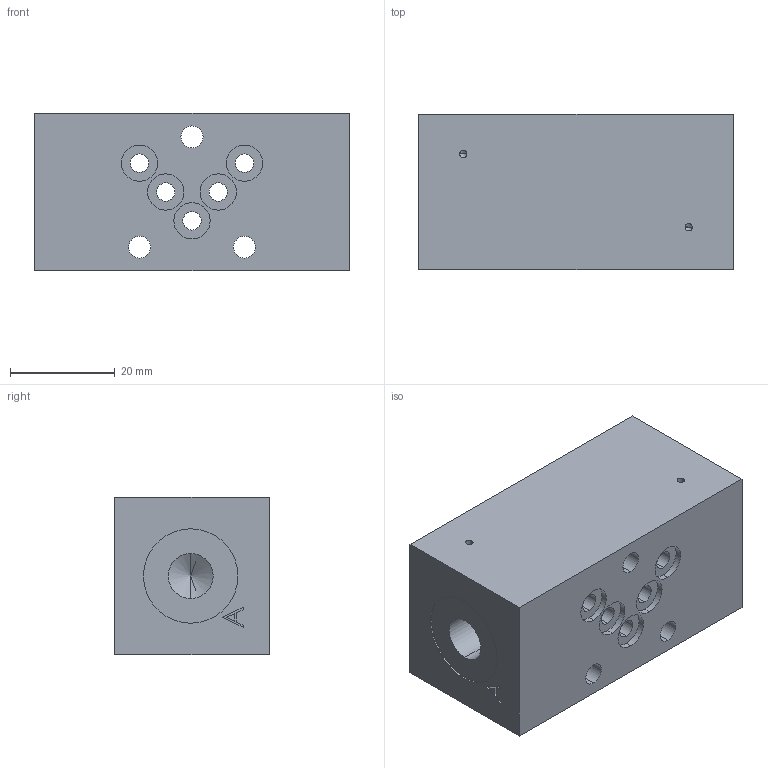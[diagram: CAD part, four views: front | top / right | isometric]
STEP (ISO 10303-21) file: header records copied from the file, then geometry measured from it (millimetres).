
FILE_DESCRIPTION (( 'STEP AP214' ), '1' );
FILE_NAME ('PGSA03-AB.STEP', '2017-03-20T06:05:33', ( '' ), ( '' ), 'SwSTEP 2.0', 'SolidWorks 2016', '' );
FILE_SCHEMA (( 'AUTOMOTIVE_DESIGN' ));
Length unit declared in the file: millimetre
Products named in the file (1): PGSA03-AB
Bounding box: 60 x 29.5 x 30 mm (x, y, z)
Volume: 48325.6 mm3; surface area: 12485 mm2
Topology: 1 solids, 1 shells, 93 faces, 229 edges, 146 vertices
Faces by surface type: cylinder 38, plane 38, bspline 9, cone 8
Entity records: 3307 total; most frequent: CARTESIAN_POINT 1022, DIRECTION 449, ORIENTED_EDGE 442, EDGE_CURVE 221, AXIS2_PLACEMENT_3D 161, VERTEX_POINT 146, VECTOR 127, LINE 127
